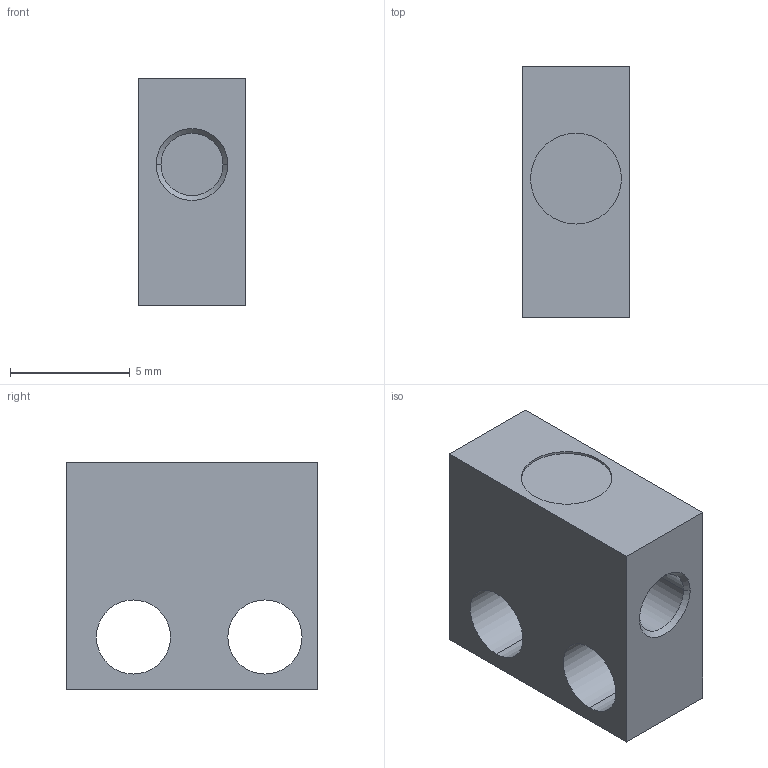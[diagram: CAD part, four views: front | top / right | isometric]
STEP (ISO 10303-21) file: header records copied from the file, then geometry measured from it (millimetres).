
FILE_DESCRIPTION (( 'STEP AP203' ), '1' );
FILE_NAME ('FV-SV2.STEP', '2005-09-08T02:41:49', ( '' ), ( '' ), 'SwSTEP 2.0', 'SolidWorks 2004073', '' );
FILE_SCHEMA (( 'CONFIG_CONTROL_DESIGN' ));
Length unit declared in the file: millimetre
Products named in the file (1): FV-SV2
Bounding box: 4.5 x 10.5 x 9.5 mm (x, y, z)
Volume: 362.3 mm3; surface area: 465 mm2
Topology: 1 solids, 1 shells, 21 faces, 46 edges, 30 vertices
Faces by surface type: cylinder 10, plane 9, cone 2
Entity records: 671 total; most frequent: DIRECTION 112, CARTESIAN_POINT 98, ORIENTED_EDGE 92, EDGE_CURVE 46, AXIS2_PLACEMENT_3D 44, VERTEX_POINT 30, EDGE_LOOP 28, VECTOR 24
